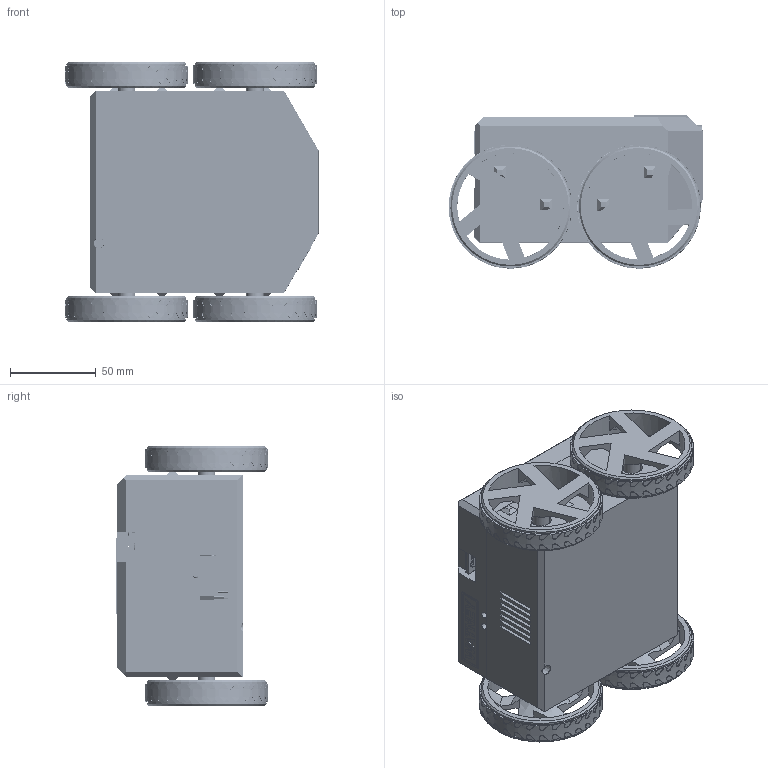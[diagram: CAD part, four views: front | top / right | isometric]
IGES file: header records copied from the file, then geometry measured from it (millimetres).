
Global section: file name: watney-4d; native system: unknown; preprocessor: unknown; author: 2centnik; organization: unknown; date: 20180922.233050; units: millimetre
Bounding box: 148.5 x 89.22 x 151.6 mm (x, y, z)
Volume: 427313.2 mm3; surface area: 285360.5 mm2
Topology: 49 solids, 50 shells, 5582 faces, 15463 edges, 10364 vertices
Faces by surface type: bspline 5582
